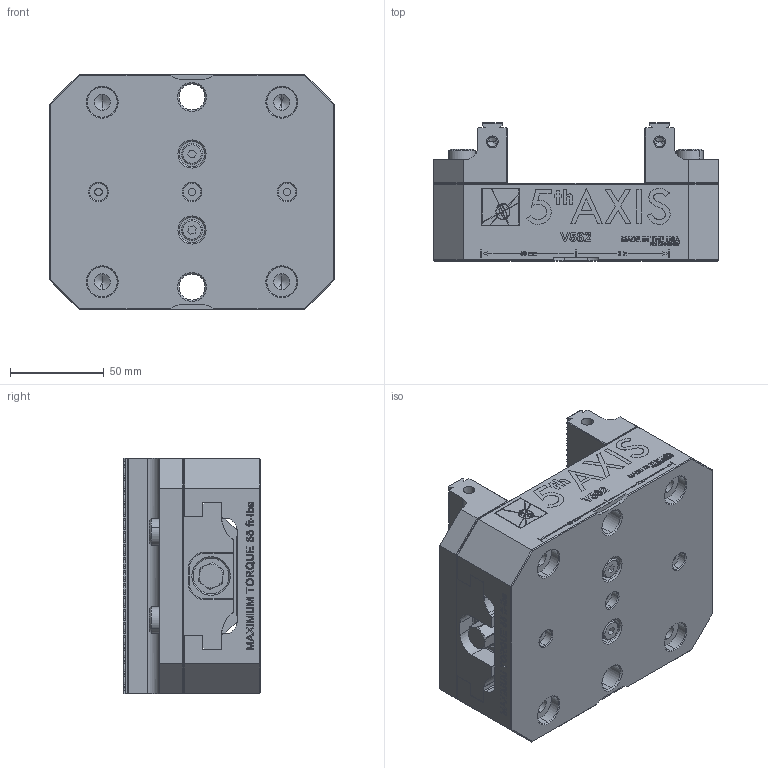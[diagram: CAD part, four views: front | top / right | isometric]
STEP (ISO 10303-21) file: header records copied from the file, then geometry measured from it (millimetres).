
FILE_DESCRIPTION (( 'STEP AP214' ), '1' );
FILE_NAME ('V562.STEP', '2019-05-06T16:34:54', ( '' ), ( '' ), 'SwSTEP 2.0', 'SolidWorks 2018', '' );
FILE_SCHEMA (( 'AUTOMOTIVE_DESIGN' ));
Length unit declared in the file: inch
Products named in the file (13): #10-32; SB5V; V562-2R_Final Right; LP250_NO THREADS ; 72158_91251A624; V562-5_FINISHED PART ; V562-2L_Final Left; Cup Point Set Screw_DEFAULT; V562-6_V56124-6; V562-4_V56124-4; V562M-3_V562M-3; V56124-1_V562-1; V562
Assembly tree (23 placements, depth 2):
  V562
    V56124-1_V562-1
    V562M-3_V562M-3
    V562-4_V56124-4
    V562-6_V56124-6  x2
    Cup Point Set Screw_DEFAULT
    V562-2L_Final Left
    V562-5_FINISHED PART   x2
    72158_91251A624  x4
    LP250_NO THREADS   x4
    V562-2R_Final Right
    SB5V  x2
    #10-32  x3
Bounding box: 152.4 x 73.65 x 125.73 mm (x, y, z)
Volume: 780520.6 mm3; surface area: 173339.3 mm2
Topology: 23 solids, 23 shells, 3622 faces, 9665 edges, 6321 vertices
Faces by surface type: plane 1759, cylinder 893, bspline 675, cone 275, torus 20
Entity records: 140545 total; most frequent: CARTESIAN_POINT 52372, ORIENTED_EDGE 14852, DIRECTION 10777, EDGE_CURVE 7426, VECTOR 4951, LINE 4951, VERTEX_POINT 4889, EDGE_LOOP 3083
